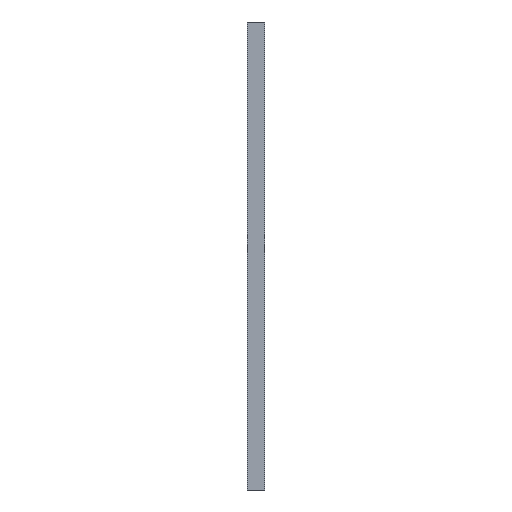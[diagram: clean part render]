
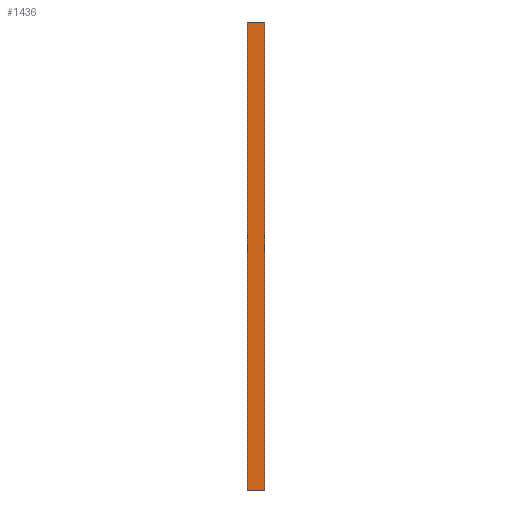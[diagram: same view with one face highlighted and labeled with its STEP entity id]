
A CAD part, front view. The second image highlights one B-rep face of the part: STEP entity #1436.
In plain terms, the highlighted planar face has unit normal (0, -1, 0).
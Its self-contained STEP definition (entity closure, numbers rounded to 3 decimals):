
#22 = VERTEX_POINT('',#23);
#23 = CARTESIAN_POINT('',(982.,0.,18.));
#32 = PLANE('',#33);
#33 = AXIS2_PLACEMENT_3D('',#34,#35,#36);
#34 = CARTESIAN_POINT('',(982.,0.,18.));
#35 = DIRECTION('',(0.,0.,-1.));
#36 = DIRECTION('',(1.,0.,0.));
#44 = PLANE('',#45);
#45 = AXIS2_PLACEMENT_3D('',#46,#47,#48);
#46 = CARTESIAN_POINT('',(982.,0.,500.));
#47 = DIRECTION('',(-1.,0.,0.));
#48 = DIRECTION('',(0.,0.,-1.));
#85 = VERTEX_POINT('',#86);
#86 = CARTESIAN_POINT('',(1000.,0.,18.));
#100 = PLANE('',#101);
#101 = AXIS2_PLACEMENT_3D('',#102,#103,#104);
#102 = CARTESIAN_POINT('',(1000.,0.,18.));
#103 = DIRECTION('',(1.,0.,0.));
#104 = DIRECTION('',(0.,0.,1.));
#112 = EDGE_CURVE('',#22,#85,#113,.T.);
#113 = SURFACE_CURVE('',#114,(#118,#125),.PCURVE_S1.);
#114 = LINE('',#115,#116);
#115 = CARTESIAN_POINT('',(982.,0.,18.));
#116 = VECTOR('',#117,1.);
#117 = DIRECTION('',(1.,0.,0.));
#118 = PCURVE('',#32,#119);
#119 = DEFINITIONAL_REPRESENTATION('',(#120),#124);
#120 = LINE('',#121,#122);
#121 = CARTESIAN_POINT('',(0.,0.));
#122 = VECTOR('',#123,1.);
#123 = DIRECTION('',(1.,0.));
#124 = ( GEOMETRIC_REPRESENTATION_CONTEXT(2) 
PARAMETRIC_REPRESENTATION_CONTEXT() REPRESENTATION_CONTEXT('2D SPACE',''
  ) );
#125 = PCURVE('',#126,#131);
#126 = PLANE('',#127);
#127 = AXIS2_PLACEMENT_3D('',#128,#129,#130);
#128 = CARTESIAN_POINT('',(991.,0.,259.));
#129 = DIRECTION('',(-0.,-1.,-0.));
#130 = DIRECTION('',(0.,0.,-1.));
#131 = DEFINITIONAL_REPRESENTATION('',(#132),#136);
#132 = LINE('',#133,#134);
#133 = CARTESIAN_POINT('',(241.,-9.));
#134 = VECTOR('',#135,1.);
#135 = DIRECTION('',(0.,1.));
#136 = ( GEOMETRIC_REPRESENTATION_CONTEXT(2) 
PARAMETRIC_REPRESENTATION_CONTEXT() REPRESENTATION_CONTEXT('2D SPACE',''
  ) );
#142 = VERTEX_POINT('',#143);
#143 = CARTESIAN_POINT('',(982.,0.,500.));
#159 = PLANE('',#160);
#160 = AXIS2_PLACEMENT_3D('',#161,#162,#163);
#161 = CARTESIAN_POINT('',(1000.,0.,500.));
#162 = DIRECTION('',(0.,-0.,1.));
#163 = DIRECTION('',(-1.,0.,0.));
#193 = EDGE_CURVE('',#142,#22,#194,.T.);
#194 = SURFACE_CURVE('',#195,(#199,#206),.PCURVE_S1.);
#195 = LINE('',#196,#197);
#196 = CARTESIAN_POINT('',(982.,0.,500.));
#197 = VECTOR('',#198,1.);
#198 = DIRECTION('',(0.,0.,-1.));
#199 = PCURVE('',#44,#200);
#200 = DEFINITIONAL_REPRESENTATION('',(#201),#205);
#201 = LINE('',#202,#203);
#202 = CARTESIAN_POINT('',(0.,-0.));
#203 = VECTOR('',#204,1.);
#204 = DIRECTION('',(1.,0.));
#205 = ( GEOMETRIC_REPRESENTATION_CONTEXT(2) 
PARAMETRIC_REPRESENTATION_CONTEXT() REPRESENTATION_CONTEXT('2D SPACE',''
  ) );
#206 = PCURVE('',#126,#207);
#207 = DEFINITIONAL_REPRESENTATION('',(#208),#212);
#208 = LINE('',#209,#210);
#209 = CARTESIAN_POINT('',(-241.,-9.));
#210 = VECTOR('',#211,1.);
#211 = DIRECTION('',(1.,0.));
#212 = ( GEOMETRIC_REPRESENTATION_CONTEXT(2) 
PARAMETRIC_REPRESENTATION_CONTEXT() REPRESENTATION_CONTEXT('2D SPACE',''
  ) );
#878 = VERTEX_POINT('',#879);
#879 = CARTESIAN_POINT('',(1000.,0.,500.));
#900 = EDGE_CURVE('',#85,#878,#901,.T.);
#901 = SURFACE_CURVE('',#902,(#906,#913),.PCURVE_S1.);
#902 = LINE('',#903,#904);
#903 = CARTESIAN_POINT('',(1000.,0.,18.));
#904 = VECTOR('',#905,1.);
#905 = DIRECTION('',(0.,0.,1.));
#906 = PCURVE('',#100,#907);
#907 = DEFINITIONAL_REPRESENTATION('',(#908),#912);
#908 = LINE('',#909,#910);
#909 = CARTESIAN_POINT('',(0.,0.));
#910 = VECTOR('',#911,1.);
#911 = DIRECTION('',(1.,0.));
#912 = ( GEOMETRIC_REPRESENTATION_CONTEXT(2) 
PARAMETRIC_REPRESENTATION_CONTEXT() REPRESENTATION_CONTEXT('2D SPACE',''
  ) );
#913 = PCURVE('',#126,#914);
#914 = DEFINITIONAL_REPRESENTATION('',(#915),#919);
#915 = LINE('',#916,#917);
#916 = CARTESIAN_POINT('',(241.,9.));
#917 = VECTOR('',#918,1.);
#918 = DIRECTION('',(-1.,0.));
#919 = ( GEOMETRIC_REPRESENTATION_CONTEXT(2) 
PARAMETRIC_REPRESENTATION_CONTEXT() REPRESENTATION_CONTEXT('2D SPACE',''
  ) );
#1436 = ADVANCED_FACE('',(#1437),#126,.T.);
#1437 = FACE_BOUND('',#1438,.T.);
#1438 = EDGE_LOOP('',(#1439,#1440,#1441,#1462));
#1439 = ORIENTED_EDGE('',*,*,#112,.T.);
#1440 = ORIENTED_EDGE('',*,*,#900,.T.);
#1441 = ORIENTED_EDGE('',*,*,#1442,.T.);
#1442 = EDGE_CURVE('',#878,#142,#1443,.T.);
#1443 = SURFACE_CURVE('',#1444,(#1448,#1455),.PCURVE_S1.);
#1444 = LINE('',#1445,#1446);
#1445 = CARTESIAN_POINT('',(1000.,0.,500.));
#1446 = VECTOR('',#1447,1.);
#1447 = DIRECTION('',(-1.,0.,0.));
#1448 = PCURVE('',#126,#1449);
#1449 = DEFINITIONAL_REPRESENTATION('',(#1450),#1454);
#1450 = LINE('',#1451,#1452);
#1451 = CARTESIAN_POINT('',(-241.,9.));
#1452 = VECTOR('',#1453,1.);
#1453 = DIRECTION('',(0.,-1.));
#1454 = ( GEOMETRIC_REPRESENTATION_CONTEXT(2) 
PARAMETRIC_REPRESENTATION_CONTEXT() REPRESENTATION_CONTEXT('2D SPACE',''
  ) );
#1455 = PCURVE('',#159,#1456);
#1456 = DEFINITIONAL_REPRESENTATION('',(#1457),#1461);
#1457 = LINE('',#1458,#1459);
#1458 = CARTESIAN_POINT('',(0.,0.));
#1459 = VECTOR('',#1460,1.);
#1460 = DIRECTION('',(1.,0.));
#1461 = ( GEOMETRIC_REPRESENTATION_CONTEXT(2) 
PARAMETRIC_REPRESENTATION_CONTEXT() REPRESENTATION_CONTEXT('2D SPACE',''
  ) );
#1462 = ORIENTED_EDGE('',*,*,#193,.T.);
